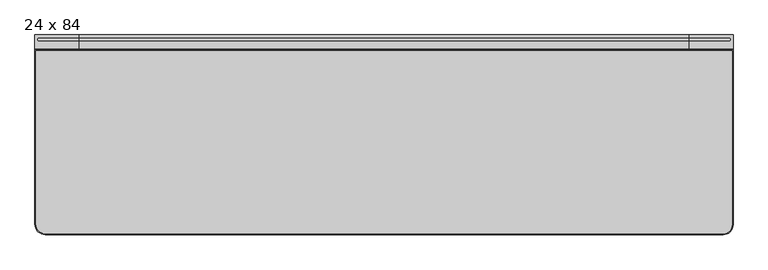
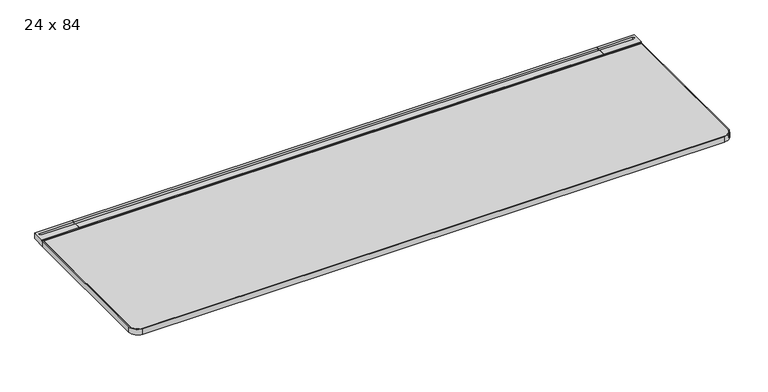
"""IFC4 building model written with IfcOpenShell, lengths in millimetres: furniture geometry, Steelcase - C Scape - Desking - Straight : 24 x 84."""

from ifc_helpers import new_model, si_unit, point, frame, frame_2d, origin, place, context, project, spatial, polyline, circle_curve, trimmed, segment, composite_curve, outline, extrude, faceted_brep, source, transform, mapped, element, save
from ifc_brep_helpers import plane_surface, cylinder_surface, revolved_surface, advanced_brep


def furniture_24_x_84_4c3feb66(model_context):
    return source(origin(), model_context, "Body", "SolidModel", [
        advanced_brep(
        [(1999.0562243, -45.3135132, 703.3768), (1999.0562243, -45.3135132, 722.4268341), (1999.0562243, -42.7750923, 722.4268341), (1999.0562243, -42.7750923, 725.932), (1999.0562243, -19.3290527, 725.932), (1999.0562243, -19.3290527, 713.486), (1999.0562243, -8.5111084, 713.486), (1999.0562243, -8.5111084, 725.932), (1999.0562243, 0.0, 725.932), (1999.0562243, 0.0, 705.1038636), (1999.0562243, -3.2278472, 705.1038636), (1999.0562243, -4.0331902, 703.3768), (2132.0760119, -45.3135132, 703.3768), (2132.0760119, -4.0331902, 703.3768), (2132.0760119, -3.2278472, 705.1038636), (2132.0760119, 0.0, 705.1038636), (2132.0760119, 0.0, 725.932), (2132.0760119, -42.7750923, 725.932), (2132.0760119, -42.7750923, 722.4268341), (2132.0760119, -45.3135132, 722.4268341), (2120.3139392, -8.5111084, 725.932), (2120.3139392, -19.3290527, 725.932), (2120.3139392, -19.3290527, 713.486), (2120.3139392, -8.5111084, 713.486)],
        [
            (0, 1),
            (1, 2),
            (2, 3),
            (3, 4),
            (4, 5),
            (5, 6),
            (6, 7),
            (7, 8),
            (8, 9),
            (9, 10),
            (10, 11),
            (11, 0),
            (12, 13),
            (13, 14),
            (14, 15),
            (15, 16),
            (16, 17),
            (17, 18),
            (18, 19),
            (19, 12),
            (11, 13),
            (12, 0),
            (10, 14),
            (9, 15),
            (8, 16),
            (7, 20),
            (20, 21, circle_curve(frame((2120.3139392, -13.9200806, 725.932), z_axis=(0.0, 0.0, -1.0), x_axis=(-1.0, 0.0, 0.0)), 5.4089722)),
            (21, 4),
            (3, 17),
            (2, 18),
            (1, 19),
            (5, 22),
            (22, 23, circle_curve(frame((2120.3139392, -13.9200806, 713.486), z_axis=(0.0, 0.0, 1.0), x_axis=(-1.0, 0.0, 0.0)), 5.4089722)),
            (23, 6),
            (23, 20),
            (22, 21),
        ],
        [
            plane_surface(frame((1999.0562243, -45.3135132, 703.3768), z_axis=(-1.0, 0.0, 0.0), x_axis=(0.0, 1.0, 0.0))),
            plane_surface(frame((2132.0760119, -45.3135132, 703.3768), z_axis=(1.0, 0.0, 0.0), x_axis=(0.0, -1.0, 0.0))),
            plane_surface(frame((1999.0562243, -45.3135132, 703.3768), z_axis=(0.0, 0.0, -1.0), x_axis=(1.0, 0.0, 0.0))),
            plane_surface(frame((1999.0562243, -4.0331902, 703.3768), z_axis=(0.0, 0.9063077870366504, -0.4226182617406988), x_axis=(1.0, 0.0, 0.0))),
            plane_surface(frame((1999.0562243, -3.2278472, 705.1038636), z_axis=(0.0, 0.0, -1.0), x_axis=(1.0, 0.0, 0.0))),
            plane_surface(frame((1999.0562243, 0.0, 705.1038636), z_axis=(0.0, 1.0, 0.0), x_axis=(1.0, 0.0, 0.0))),
            plane_surface(frame((1999.0562243, 0.0, 725.932), z_axis=(0.0, 0.0, 1.0), x_axis=(1.0, 0.0, 0.0))),
            plane_surface(frame((1999.0562243, -42.7750923, 725.932), z_axis=(0.0, -1.0, 0.0), x_axis=(1.0, 0.0, 0.0))),
            plane_surface(frame((1999.0562243, -42.7750923, 722.4268341), z_axis=(0.0, 0.0, 1.0), x_axis=(1.0, 0.0, 0.0))),
            plane_surface(frame((1999.0562243, -45.3135132, 722.4268341), z_axis=(0.0, -1.0, 0.0), x_axis=(1.0, 0.0, 0.0))),
            plane_surface(frame((2120.3139392, -8.5111084, 713.486), z_axis=(0.0, 0.0, 1.0), x_axis=(-1.0, 0.0, 0.0))),
            plane_surface(frame((1999.0562243, -8.5111084, 731.2180541), z_axis=(0.0, -1.0, 0.0), x_axis=(0.0, 0.0, -1.0))),
            revolved_surface(polyline([(2114.904967, -13.9200806, 725.932), (2114.904967, -13.9200806, 713.486)]), (2120.3139392, -13.9200806, 713.486), (0.0, 0.0, 1.0)),
            plane_surface(frame((2120.3139392, -19.3290527, 731.2180541), z_axis=(0.0, 1.0, 0.0), x_axis=(0.0, 0.0, -1.0))),
        ],
        [
            (0, [[1, 2, 3, 4, 5, 6, 7, 8, 9, 10, 11, 12]]),
            (1, [[13, 14, 15, 16, 17, 18, 19, 20]]),
            (2, [[21, -13, 22, -12]]),
            (3, [[23, -14, -21, -11]]),
            (4, [[24, -15, -23, -10]]),
            (5, [[25, -16, -24, -9]]),
            (6, [[-25, -8, 26, 27, 28, -4, 29, -17]]),
            (7, [[30, -18, -29, -3]]),
            (8, [[31, -19, -30, -2]]),
            (9, [[-22, -20, -31, -1]]),
            (10, [[-6, 32, 33, 34]]),
            (11, [[35, -26, -7, -34]]),
            (12, [[36, -27, -35, -33]]),
            (13, [[-5, -28, -36, -32]]),
        ],
    ),
        faceted_brep([(2113.0252487, -565.0752923, 700.7093833), (2113.0252487, -565.0752923, 703.3768), (1999.0562243, -565.0752923, 703.3768), (1999.0562243, -565.0752923, 679.3263935), (2014.6903818, -565.0752923, 679.3263935), (2017.310924, -565.0752923, 693.4200291), (2098.7501391, -565.0752923, 693.4200291), (2113.0252487, -4.0331902, 700.7093833), (2098.7501391, -4.0331902, 693.4200291), (2017.310924, -4.0331902, 693.4200291), (2005.4046772, -4.0331902, 629.3866), (1999.0562243, -4.0331902, 629.3866), (1999.0562243, -4.0331902, 703.3768), (2113.0252487, -4.0331902, 703.3768), (2012.5251068, -376.5599397, 667.6812472), (2005.4046772, -364.1172546, 629.3866), (1999.0562243, -364.1172546, 629.3866), (1999.0562243, -376.5599397, 667.6812472)], [[[0, 1, 2, 3, 4, 5, 6]], [[7, 8, 9, 10, 11, 12, 13]], [[6, 8, 7, 0]], [[5, 9, 8, 6]], [[9, 5, 4, 14, 15, 10]], [[10, 15, 16, 11]], [[11, 16, 17, 3, 2, 12]], [[1, 13, 12, 2]], [[0, 7, 13, 1]], [[14, 4, 3, 17]], [[17, 16, 15, 14]]]),
        extrude(outline(composite_curve([segment(polyline([(-293.5216187, 657.3775839), (-559.0022133, 680.1371551)]), True, "CONTINUOUS"), segment(trimmed(circle_curve(frame_2d((-558.7581271, 682.9843154)), 2.8576039), [point((-559.0022133, 680.1371551))], [point((-561.5383043, 682.3236226))], False, "CARTESIAN"), True, "CONTINUOUS"), segment(polyline([(-561.5383043, 682.3236226), (-566.0887542, 701.4717905), (-557.8334441, 701.4717905), (-557.8334441, 703.3768), (-442.6683806, 703.3768), (-442.6683806, 696.3917953), (-318.2108611, 696.3917953), (-318.2108611, 703.3768), (-293.5216187, 703.3768), (-293.5216187, 657.3775839)]), True, "CONTINUOUS")], self_intersect=False)), frame((1030.224, 0.0, 0.0), z_axis=(1.0, 0.0, 0.0), x_axis=(0.0, 1.0, 0.0)), (0.0, 0.0, 1.0), 73.152),
        advanced_brep(
        [(134.6072876, -45.3135132, 703.3768), (134.6072876, -4.0331902, 703.3768), (134.6072876, -3.2278472, 705.1038636), (134.6072876, 0.0, 705.1038636), (134.6072876, 0.0, 725.932), (134.6072876, -8.5111084, 725.932), (134.6072876, -8.5111084, 713.486), (134.6072876, -19.3290527, 713.486), (134.6072876, -19.3290527, 725.932), (134.6072876, -42.7750923, 725.932), (134.6072876, -42.7750923, 722.4268341), (134.6072876, -45.3135132, 722.4268341), (1.5875, -45.3135132, 703.3768), (1.5875, -45.3135132, 722.4268341), (1.5875, -42.7750923, 722.4268341), (1.5875, -42.7750923, 725.932), (1.5875, 0.0, 725.932), (1.5875, 0.0, 705.1038636), (1.5875, -3.2278472, 705.1038636), (1.5875, -4.0331902, 703.3768), (13.3495728, -19.3290527, 725.932), (13.3495728, -8.5111084, 725.932), (13.3495728, -8.5111084, 713.486), (13.3495728, -19.3290527, 713.486)],
        [
            (0, 1),
            (1, 2),
            (2, 3),
            (3, 4),
            (4, 5),
            (5, 6),
            (6, 7),
            (7, 8),
            (8, 9),
            (9, 10),
            (10, 11),
            (11, 0),
            (12, 13),
            (13, 14),
            (14, 15),
            (15, 16),
            (16, 17),
            (17, 18),
            (18, 19),
            (19, 12),
            (0, 12),
            (19, 1),
            (18, 2),
            (17, 3),
            (16, 4),
            (15, 9),
            (8, 20),
            (20, 21, circle_curve(frame((13.3495728, -13.9200806, 725.932), z_axis=(0.0, 0.0, -1.0), x_axis=(1.0, 0.0, 0.0)), 5.4089722)),
            (21, 5),
            (14, 10),
            (13, 11),
            (6, 22),
            (22, 23, circle_curve(frame((13.3495728, -13.9200806, 713.486), z_axis=(0.0, 0.0, 1.0), x_axis=(1.0, 0.0, 0.0)), 5.4089722)),
            (23, 7),
            (21, 22),
            (20, 23),
        ],
        [
            plane_surface(frame((134.6072876, -45.3135132, 703.3768), z_axis=(1.0, 0.0, 0.0), x_axis=(0.0, 1.0, 0.0))),
            plane_surface(frame((1.5875, -45.3135132, 703.3768), z_axis=(-1.0, 0.0, 0.0), x_axis=(0.0, -1.0, 0.0))),
            plane_surface(frame((134.6072876, -45.3135132, 703.3768), z_axis=(0.0, 0.0, -1.0), x_axis=(-1.0, 0.0, 0.0))),
            plane_surface(frame((134.6072876, -4.0331902, 703.3768), z_axis=(0.0, 0.9063077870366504, -0.4226182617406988), x_axis=(-1.0, 0.0, 0.0))),
            plane_surface(frame((134.6072876, -3.2278472, 705.1038636), z_axis=(0.0, 0.0, -1.0), x_axis=(-1.0, 0.0, 0.0))),
            plane_surface(frame((134.6072876, 0.0, 705.1038636), z_axis=(0.0, 1.0, 0.0), x_axis=(-1.0, 0.0, 0.0))),
            plane_surface(frame((134.6072876, 0.0, 725.932), z_axis=(0.0, 0.0, 1.0), x_axis=(-1.0, 0.0, 0.0))),
            plane_surface(frame((134.6072876, -42.7750923, 725.932), z_axis=(0.0, -1.0, 0.0), x_axis=(-1.0, 0.0, 0.0))),
            plane_surface(frame((134.6072876, -42.7750923, 722.4268341), z_axis=(0.0, 0.0, 1.0), x_axis=(-1.0, 0.0, 0.0))),
            plane_surface(frame((134.6072876, -45.3135132, 722.4268341), z_axis=(0.0, -1.0, 0.0), x_axis=(-1.0, 0.0, 0.0))),
            plane_surface(frame((13.3495728, -8.5111084, 713.486), z_axis=(0.0, 0.0, 1.0), x_axis=(1.0, 0.0, 0.0))),
            plane_surface(frame((134.6072876, -8.5111084, 731.2180541), z_axis=(0.0, -1.0, 0.0), x_axis=(0.0, 0.0, -1.0))),
            revolved_surface(polyline([(18.758545, -13.9200806, 725.932), (18.758545, -13.9200806, 713.486)]), (13.3495728, -13.9200806, 713.486), (0.0, 0.0, 1.0)),
            plane_surface(frame((13.3495728, -19.3290527, 731.2180541), z_axis=(0.0, 1.0, 0.0), x_axis=(0.0, 0.0, -1.0))),
        ],
        [
            (0, [[1, 2, 3, 4, 5, 6, 7, 8, 9, 10, 11, 12]]),
            (1, [[13, 14, 15, 16, 17, 18, 19, 20]]),
            (2, [[-1, 21, -20, 22]]),
            (3, [[-2, -22, -19, 23]]),
            (4, [[-3, -23, -18, 24]]),
            (5, [[-4, -24, -17, 25]]),
            (6, [[-16, 26, -9, 27, 28, 29, -5, -25]]),
            (7, [[-10, -26, -15, 30]]),
            (8, [[-11, -30, -14, 31]]),
            (9, [[-12, -31, -13, -21]]),
            (10, [[32, 33, 34, -7]]),
            (11, [[-32, -6, -29, 35]]),
            (12, [[-33, -35, -28, 36]]),
            (13, [[-34, -36, -27, -8]]),
        ],
    ),
        faceted_brep([(20.6382632, -565.0752923, 700.7093833), (34.9133728, -565.0752923, 693.4200291), (116.3525879, -565.0752923, 693.4200291), (118.9731301, -565.0752923, 679.3263935), (134.6072876, -565.0752923, 679.3263935), (134.6072876, -565.0752923, 703.3768), (20.6382632, -565.0752923, 703.3768), (20.6382632, -4.0331902, 700.7093833), (20.6382632, -4.0331902, 703.3768), (134.6072876, -4.0331902, 703.3768), (134.6072876, -4.0331902, 629.3866), (128.2588347, -4.0331902, 629.3866), (116.3525879, -4.0331902, 693.4200291), (34.9133728, -4.0331902, 693.4200291), (128.2588347, -364.1172546, 629.3866), (121.1384051, -376.5599397, 667.6812472), (134.6072876, -364.1172546, 629.3866), (134.6072876, -376.5599397, 667.6812472)], [[[0, 1, 2, 3, 4, 5, 6]], [[7, 8, 9, 10, 11, 12, 13]], [[1, 0, 7, 13]], [[2, 1, 13, 12]], [[12, 11, 14, 15, 3, 2]], [[11, 10, 16, 14]], [[10, 9, 5, 4, 17, 16]], [[6, 5, 9, 8]], [[0, 6, 8, 7]], [[15, 17, 4, 3]], [[17, 15, 14, 16]]]),
        extrude(outline(polyline([(-8.5111084, 725.932), (0.0, 725.932), (0.0, 705.1038636), (-3.2278472, 705.1038636), (-4.0331902, 703.3768), (-45.3135132, 703.3768), (-45.3135132, 722.4268341), (-42.7750923, 722.4268341), (-42.7750923, 725.932), (-19.3290527, 725.932), (-19.3290527, 713.486), (-8.5111084, 713.486), (-8.5111084, 725.932)])), frame((134.6072876, 0.0, 0.0), z_axis=(1.0, 0.0, 0.0), x_axis=(0.0, 1.0, 0.0)), (0.0, 0.0, 1.0), 1864.4489367),
        extrude(outline(polyline([(134.6072876, -293.5216187), (134.6072876, -4.0331902), (1999.0562243, -4.0331902), (1999.0562243, -293.5216187), (134.6072876, -293.5216187)])), frame((0.0, 0.0, 629.3866), z_axis=(0.0, 0.0, 1.0), x_axis=(1.0, 0.0, 0.0)), (0.0, 0.0, 1.0), 73.9902),
        advanced_brep(
        [(4.6355, -48.3660689, 723.9), (4.6355, -577.85, 723.9), (33.3375, -606.5490234, 723.9), (2102.2737019, -606.5490234, 723.9), (2129.0273608, -579.7953645, 723.9), (2129.0273608, -48.3660689, 723.9), (4.6355, -48.3660689, 703.3768), (2129.0273608, -48.3660689, 703.3768), (2129.0273608, -579.7953645, 703.3768), (2102.2737019, -606.5490234, 703.3768), (33.3375, -606.5490234, 703.3768), (4.6384766, -577.85, 703.3768)],
        [
            (0, 1),
            (1, 2, circle_curve(frame((33.3375, -577.85, 723.9), z_axis=(0.0, 0.0, 1.0), x_axis=(1.0, 0.0, 0.0)), 28.6990234)),
            (2, 3),
            (3, 4, circle_curve(frame((2102.2737019, -579.7953645, 723.9), z_axis=(0.0, 0.0, 1.0), x_axis=(1.0, 0.0, 0.0)), 26.7536589)),
            (4, 5),
            (5, 0),
            (6, 7),
            (7, 8),
            (8, 9, circle_curve(frame((2102.2737019, -579.7953645, 703.3768), z_axis=(0.0, 0.0, -1.0), x_axis=(1.0, 0.0, 0.0)), 26.7536589)),
            (9, 10),
            (10, 11, circle_curve(frame((33.3375, -577.85, 703.3768), z_axis=(0.0, 0.0, -1.0), x_axis=(1.0, 0.0, 0.0)), 28.6990234)),
            (11, 6),
            (0, 6),
            (11, 1),
            (10, 2),
            (9, 3),
            (8, 4),
            (7, 5),
        ],
        [
            plane_surface(frame((4.6355, -48.3660689, 723.9), z_axis=(0.0, 0.0, 1.0), x_axis=(0.0, -1.0, 0.0))),
            plane_surface(frame((4.6355, -48.3660689, 703.3768), z_axis=(0.0, 0.0, -1.0), x_axis=(0.0, 1.0, 0.0))),
            plane_surface(frame((4.6355, -48.3660689, 723.9), z_axis=(-1.0, 0.0, 0.0), x_axis=(0.0, 0.0, -1.0))),
            cylinder_surface(frame((33.3375, -577.85, 703.3768), z_axis=(0.0, 0.0, 1.0), x_axis=(1.0, 0.0, 0.0)), 28.6990234),
            plane_surface(frame((33.3375, -606.5490234, 723.9), z_axis=(0.0, -1.0, 0.0), x_axis=(0.0, 0.0, -1.0))),
            cylinder_surface(frame((2102.2737019, -579.7953645, 703.3768), z_axis=(0.0, 0.0, 1.0), x_axis=(1.0, 0.0, 0.0)), 26.7536589),
            plane_surface(frame((2129.0273608, -579.7953645, 723.9), z_axis=(1.0, 0.0, 0.0), x_axis=(0.0, 0.0, -1.0))),
            plane_surface(frame((2129.0273608, -48.3660689, 723.9), z_axis=(0.0, 1.0, 0.0), x_axis=(0.0, 0.0, -1.0))),
        ],
        [
            (0, [[1, 2, 3, 4, 5, 6]]),
            (1, [[7, 8, 9, 10, 11, 12]]),
            (2, [[-1, 13, -12, 14]]),
            (3, [[-2, -14, -11, 15]]),
            (4, [[-3, -15, -10, 16]]),
            (5, [[-4, -16, -9, 17]]),
            (6, [[-5, -17, -8, 18]]),
            (7, [[-6, -18, -7, -13]]),
        ],
    ),
        extrude(outline(composite_curve([segment(trimmed(circle_curve(frame_2d((33.3375, -577.85)), 31.75), [point((33.3375, -609.6))], [point((1.5875, -577.85))], False, "CARTESIAN"), True, "CONTINUOUS"), segment(polyline([(1.5875, -577.85), (1.5875, -45.3150923), (2132.076, -45.3150923), (2132.076, -579.7250374)]), True, "CONTINUOUS"), segment(trimmed(circle_curve(frame_2d((2102.2010374, -579.7250374)), 29.8749626), [point((2132.076, -579.7250374))], [point((2102.2010374, -609.6))], False, "CARTESIAN"), True, "CONTINUOUS"), segment(polyline([(2102.2010374, -609.6), (33.3375, -609.6)]), True, "CONTINUOUS")], self_intersect=False), holes=[composite_curve([segment(polyline([(2129.0250234, -48.3660689), (4.6384766, -48.3660689), (4.6384766, -577.85)]), True, "CONTINUOUS"), segment(trimmed(circle_curve(frame_2d((33.3375, -577.85)), 28.6990234), [point((4.6384766, -577.85))], [point((33.3375, -606.5490234))], True, "CARTESIAN"), True, "CONTINUOUS"), segment(polyline([(33.3375, -606.5490234), (2102.2010374, -606.5490234)]), True, "CONTINUOUS"), segment(trimmed(circle_curve(frame_2d((2102.2010374, -579.7250374)), 26.8239861), [point((2102.2010374, -606.5490234))], [point((2129.0250234, -579.7250374))], True, "CARTESIAN"), True, "CONTINUOUS"), segment(polyline([(2129.0250234, -579.7250374), (2129.0250234, -48.3660689)]), True, "CONTINUOUS")], self_intersect=False)]), frame((0.0, 0.0, 703.3768), z_axis=(0.0, 0.0, 1.0), x_axis=(1.0, 0.0, 0.0)), (0.0, 0.0, 1.0), 20.5232),
    ])


if __name__ == "__main__":
    model = new_model("IFC4")
    model_context = context("Model", 3, world=origin())
    ifc_project = project(units=[si_unit("LENGTHUNIT", "METRE", prefix="MILLI")], contexts=[model_context])
    site = spatial("IfcSite", under=ifc_project)
    building = spatial("IfcBuilding", under=site)
    placement = place(None, origin())
    furniture_24_x_84_shape = furniture_24_x_84_4c3feb66(model_context)
    element("IfcFurniture", 1, ObjectType="Steelcase - C Scape - Desking - Straight : 24 x 84", at=placement, inside=building, context=model_context, shape_type="MappedRepresentation", body=[
        mapped(furniture_24_x_84_shape, transform((0.0, 0.0, 0.0), x_axis=(1.0, 0.0, 0.0), y_axis=(0.0, 1.0, 0.0), z_axis=(0.0, 0.0, 1.0))),
    ])
    save(model, "model.ifc")
